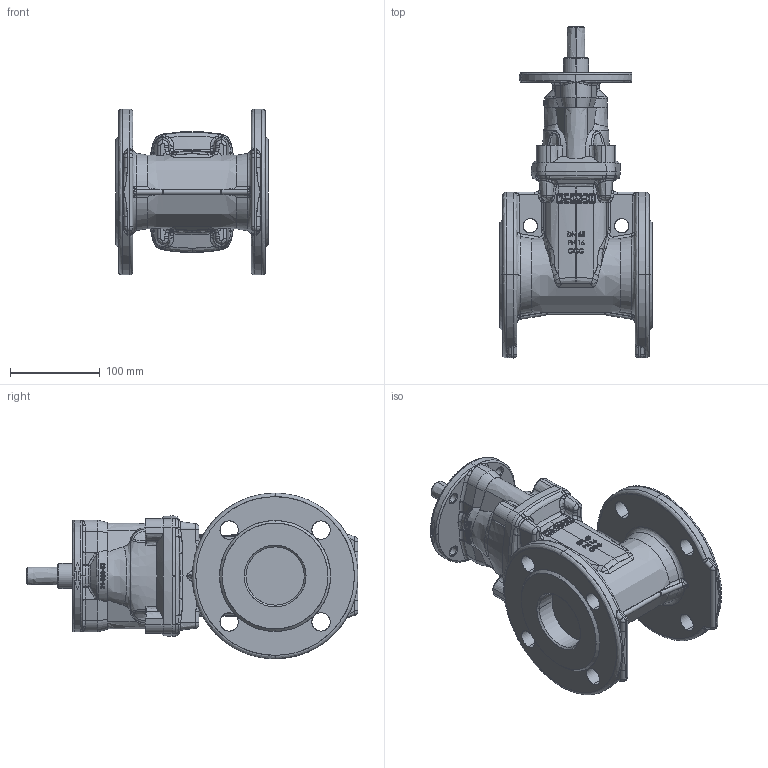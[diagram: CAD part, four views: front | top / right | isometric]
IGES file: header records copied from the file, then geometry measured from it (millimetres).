
Start section: SolidWorks IGES file using analytic representation for surfaces
Global section: file name: C:\outline drawing\15\1506542016\1506542016.IGS; native system: SolidWorks 2008; preprocessor: SolidWorks 2008; author: ch_xmm; date: 100921.172722; units: millimetre
Bounding box: 170 x 370.5 x 185 mm (x, y, z)
Surface area: 269502.1 mm2 (no closed solid volume)
Topology: 0 solids, 0 shells, 1239 faces, 15996 edges, 15957 vertices
Faces by surface type: bspline 927, revolution 312
